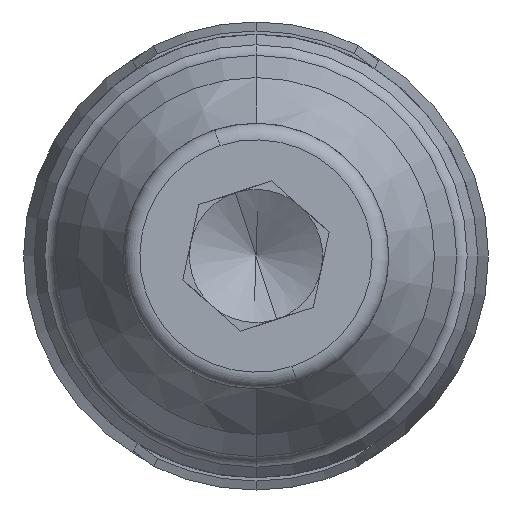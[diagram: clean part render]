
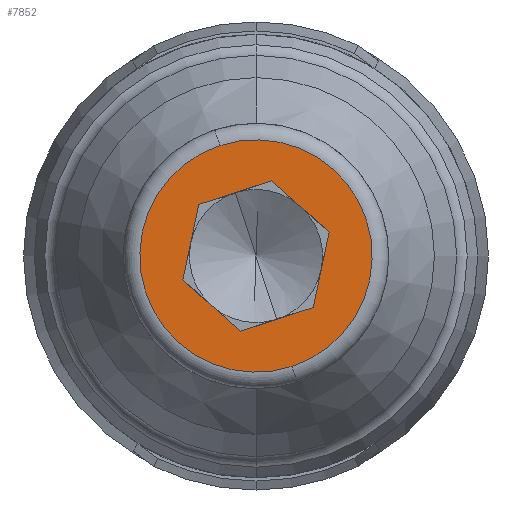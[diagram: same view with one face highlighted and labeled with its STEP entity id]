
A CAD part, left-side view. The second image highlights one B-rep face of the part: STEP entity #7852.
In plain terms, the highlighted planar face has unit normal (-1, 0, 0).
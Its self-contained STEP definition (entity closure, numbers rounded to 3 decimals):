
#225 = CARTESIAN_POINT ( 'NONE',  ( -41.293, 22.722, 4.533 ) ) ;
#250 = PLANE ( 'NONE',  #8961 ) ;
#595 = CARTESIAN_POINT ( 'NONE',  ( -41.293, 27.126, 3.095 ) ) ;
#889 = AXIS2_PLACEMENT_3D ( 'NONE', #10111, #7125, #9480 ) ;
#893 = LINE ( 'NONE', #4413, #2710 ) ;
#977 = EDGE_CURVE ( 'NONE', #8096, #2620, #6219, .T. ) ;
#1048 = CARTESIAN_POINT ( 'NONE',  ( -41.293, 28.083, -1.438 ) ) ;
#1166 = EDGE_CURVE ( 'NONE', #6902, #1793, #3524, .T. ) ;
#1177 = CIRCLE ( 'NONE', #8896, 7. ) ;
#1372 = ORIENTED_EDGE ( 'NONE', *, *, #6427, .T. ) ;
#1501 = EDGE_CURVE ( 'NONE', #1793, #2620, #9658, .T. ) ;
#1519 = CARTESIAN_POINT ( 'NONE',  ( -41.293, 24.635, -4.533 ) ) ;
#1793 = VERTEX_POINT ( 'NONE', #9031 ) ;
#1973 = VECTOR ( 'NONE', #3698, 1000. ) ;
#2620 = VERTEX_POINT ( 'NONE', #8307 ) ;
#2701 = LINE ( 'NONE', #9378, #5234 ) ;
#2710 = VECTOR ( 'NONE', #2921, 1000. ) ;
#2921 = DIRECTION ( 'NONE',  ( 0., -0.206, 0.978 ) ) ;
#3350 = DIRECTION ( 'NONE',  ( -1., 0., 0. ) ) ;
#3379 = CARTESIAN_POINT ( 'NONE',  ( -41.293, 22.722, 4.533 ) ) ;
#3415 = VECTOR ( 'NONE', #5648, 1000. ) ;
#3524 = LINE ( 'NONE', #6002, #5368 ) ;
#3675 = VERTEX_POINT ( 'NONE', #595 ) ;
#3698 = DIRECTION ( 'NONE',  ( 0., -0.951, 0.31 ) ) ;
#4019 = CARTESIAN_POINT ( 'NONE',  ( -41.293, 19.274, 1.438 ) ) ;
#4165 = DIRECTION ( 'NONE',  ( 0., -0.744, -0.668 ) ) ;
#4413 = CARTESIAN_POINT ( 'NONE',  ( -41.293, 28.083, -1.438 ) ) ;
#4549 = DIRECTION ( 'NONE',  ( 0., -0.744, -0.668 ) ) ;
#4575 = DIRECTION ( 'NONE',  ( 0., 0.951, -0.31 ) ) ;
#4700 = ORIENTED_EDGE ( 'NONE', *, *, #1166, .F. ) ;
#4812 = CARTESIAN_POINT ( 'NONE',  ( -41.293, 23.679, 0. ) ) ;
#4852 = EDGE_CURVE ( 'NONE', #8870, #7180, #8034, .T. ) ;
#5234 = VECTOR ( 'NONE', #4575, 1000. ) ;
#5368 = VECTOR ( 'NONE', #4549, 1000. ) ;
#5377 = EDGE_LOOP ( 'NONE', ( #5970, #9605 ) ) ;
#5591 = DIRECTION ( 'NONE',  ( 0., 0.31, 0.951 ) ) ;
#5648 = DIRECTION ( 'NONE',  ( 0., 0.206, -0.978 ) ) ;
#5970 = ORIENTED_EDGE ( 'NONE', *, *, #4852, .T. ) ;
#6002 = CARTESIAN_POINT ( 'NONE',  ( -41.293, 28.083, -1.438 ) ) ;
#6219 = LINE ( 'NONE', #4019, #3415 ) ;
#6379 = EDGE_CURVE ( 'NONE', #7180, #8870, #1177, .T. ) ;
#6417 = VERTEX_POINT ( 'NONE', #225 ) ;
#6426 = CARTESIAN_POINT ( 'NONE',  ( -41.293, 23.679, 0. ) ) ;
#6427 = EDGE_CURVE ( 'NONE', #6417, #8096, #6507, .T. ) ;
#6454 = DIRECTION ( 'NONE',  ( 0., 0.31, 0.951 ) ) ;
#6492 = CARTESIAN_POINT ( 'NONE',  ( -41.293, 25.851, 6.654 ) ) ;
#6507 = LINE ( 'NONE', #3379, #6879 ) ;
#6879 = VECTOR ( 'NONE', #4165, 1000. ) ;
#6902 = VERTEX_POINT ( 'NONE', #1048 ) ;
#7125 = DIRECTION ( 'NONE',  ( -1., 0., 0. ) ) ;
#7180 = VERTEX_POINT ( 'NONE', #9171 ) ;
#7486 = ORIENTED_EDGE ( 'NONE', *, *, #1501, .F. ) ;
#7852 = ADVANCED_FACE ( 'NONE', ( #8333, #9308 ), #250, .T. ) ;
#7962 = ORIENTED_EDGE ( 'NONE', *, *, #8415, .T. ) ;
#8019 = EDGE_LOOP ( 'NONE', ( #7962, #8123, #1372, #9834, #7486, #4700 ) ) ;
#8034 = CIRCLE ( 'NONE', #889, 7. ) ;
#8096 = VERTEX_POINT ( 'NONE', #9227 ) ;
#8123 = ORIENTED_EDGE ( 'NONE', *, *, #8642, .F. ) ;
#8307 = CARTESIAN_POINT ( 'NONE',  ( -41.293, 20.231, -3.095 ) ) ;
#8333 = FACE_BOUND ( 'NONE', #8019, .T. ) ;
#8415 = EDGE_CURVE ( 'NONE', #6902, #3675, #893, .T. ) ;
#8642 = EDGE_CURVE ( 'NONE', #6417, #3675, #2701, .T. ) ;
#8839 = DIRECTION ( 'NONE',  ( -1., 0., 0. ) ) ;
#8870 = VERTEX_POINT ( 'NONE', #6492 ) ;
#8896 = AXIS2_PLACEMENT_3D ( 'NONE', #6426, #8839, #6454 ) ;
#8961 = AXIS2_PLACEMENT_3D ( 'NONE', #4812, #3350, #5591 ) ;
#9031 = CARTESIAN_POINT ( 'NONE',  ( -41.293, 24.635, -4.533 ) ) ;
#9171 = CARTESIAN_POINT ( 'NONE',  ( -41.293, 21.506, -6.654 ) ) ;
#9227 = CARTESIAN_POINT ( 'NONE',  ( -41.293, 19.274, 1.438 ) ) ;
#9308 = FACE_OUTER_BOUND ( 'NONE', #5377, .T. ) ;
#9378 = CARTESIAN_POINT ( 'NONE',  ( -41.293, 22.722, 4.533 ) ) ;
#9480 = DIRECTION ( 'NONE',  ( 0., 0.31, 0.951 ) ) ;
#9605 = ORIENTED_EDGE ( 'NONE', *, *, #6379, .T. ) ;
#9658 = LINE ( 'NONE', #1519, #1973 ) ;
#9834 = ORIENTED_EDGE ( 'NONE', *, *, #977, .T. ) ;
#10111 = CARTESIAN_POINT ( 'NONE',  ( -41.293, 23.679, 0. ) ) ;
